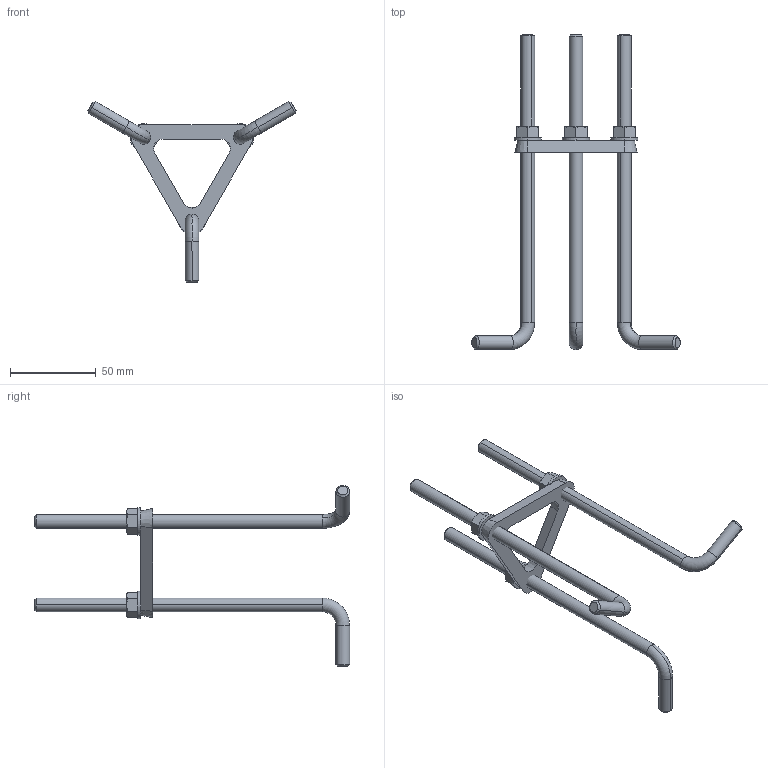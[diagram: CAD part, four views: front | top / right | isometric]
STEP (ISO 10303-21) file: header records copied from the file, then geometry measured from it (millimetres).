
FILE_DESCRIPTION (( 'STEP AP203' ), '1' );
FILE_NAME ('205.STEP', '2020-07-10T06:18:01', ( '' ), ( '' ), 'SwSTEP 2.0', 'SolidWorks 2019', '' );
FILE_SCHEMA (( 'CONFIG_CONTROL_DESIGN' ));
Length unit declared in the file: millimetre
Products named in the file (6): TRÓJKAT 56,3_rs; TR粑K冉 56,3_KOMP_rs_180; M8_rs; POD 8,4_rs; 205; KOTWA M8_TRÓJKAT 56,3_rs_180mm
Assembly tree (11 placements, depth 3):
  205
    TR粑K冉 56,3_KOMP_rs_180
      TRÓJKAT 56,3_rs
      KOTWA M8_TRÓJKAT 56,3_rs_180mm  x3
    POD 8,4_rs  x3
    M8_rs  x3
Bounding box: 121.65 x 184 x 105.71 mm (x, y, z)
Volume: 43681.8 mm3; surface area: 24766 mm2
Topology: 10 solids, 10 shells, 153 faces, 333 edges, 200 vertices
Faces by surface type: cone 67, plane 44, cylinder 36, torus 6
Entity records: 2777 total; most frequent: CARTESIAN_POINT 457, DIRECTION 355, ORIENTED_EDGE 298, AXIS2_PLACEMENT_3D 150, EDGE_CURVE 149, VERTEX_POINT 92, EDGE_LOOP 77, CIRCLE 70
